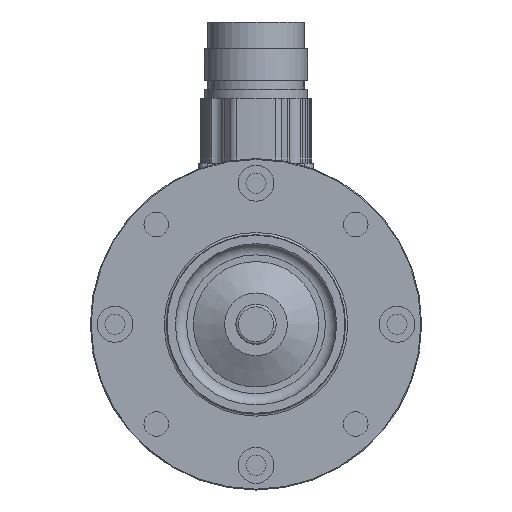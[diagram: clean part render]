
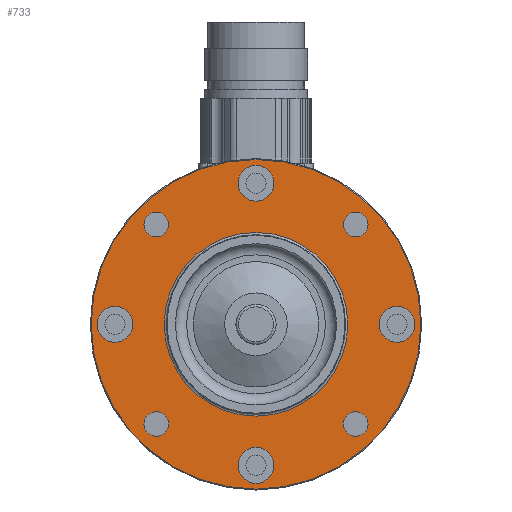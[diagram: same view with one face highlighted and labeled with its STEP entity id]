
A CAD part, front view. The second image highlights one B-rep face of the part: STEP entity #733.
In plain terms, the highlighted planar face has unit normal (0, -1, 0).
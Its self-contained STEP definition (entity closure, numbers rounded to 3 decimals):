
#355=PLANE('',#4500);
#453=FACE_BOUND('',#1378,.T.);
#454=FACE_BOUND('',#1379,.T.);
#455=FACE_BOUND('',#1380,.T.);
#456=FACE_BOUND('',#1381,.T.);
#457=FACE_BOUND('',#1382,.T.);
#458=FACE_BOUND('',#1383,.T.);
#459=FACE_BOUND('',#1384,.T.);
#460=FACE_BOUND('',#1385,.T.);
#461=FACE_BOUND('',#1387,.T.);
#733=ADVANCED_FACE('',(#453,#454,#455,#456,#457,#458,#459,#460,#1171,#461),
#355,.T.);
#1171=FACE_OUTER_BOUND('',#1386,.T.);
#1378=EDGE_LOOP('',(#2229));
#1379=EDGE_LOOP('',(#2230));
#1380=EDGE_LOOP('',(#2231));
#1381=EDGE_LOOP('',(#2232));
#1382=EDGE_LOOP('',(#2233));
#1383=EDGE_LOOP('',(#2234));
#1384=EDGE_LOOP('',(#2235));
#1385=EDGE_LOOP('',(#2236));
#1386=EDGE_LOOP('',(#2237));
#1387=EDGE_LOOP('',(#2238));
#1865=CIRCLE('',#4490,4.);
#1866=CIRCLE('',#4491,4.);
#1867=CIRCLE('',#4492,4.);
#1868=CIRCLE('',#4493,4.);
#1869=CIRCLE('',#4494,2.75);
#1870=CIRCLE('',#4495,2.75);
#1871=CIRCLE('',#4496,2.75);
#1872=CIRCLE('',#4497,2.75);
#1873=CIRCLE('',#4498,36.8);
#1874=CIRCLE('',#4499,20.5);
#2229=ORIENTED_EDGE('',*,*,#3653,.T.);
#2230=ORIENTED_EDGE('',*,*,#3654,.T.);
#2231=ORIENTED_EDGE('',*,*,#3655,.T.);
#2232=ORIENTED_EDGE('',*,*,#3656,.T.);
#2233=ORIENTED_EDGE('',*,*,#3657,.T.);
#2234=ORIENTED_EDGE('',*,*,#3658,.T.);
#2235=ORIENTED_EDGE('',*,*,#3659,.T.);
#2236=ORIENTED_EDGE('',*,*,#3660,.T.);
#2237=ORIENTED_EDGE('',*,*,#3661,.T.);
#2238=ORIENTED_EDGE('',*,*,#3662,.T.);
#3249=VERTEX_POINT('',#6635);
#3250=VERTEX_POINT('',#6637);
#3251=VERTEX_POINT('',#6639);
#3252=VERTEX_POINT('',#6641);
#3253=VERTEX_POINT('',#6643);
#3254=VERTEX_POINT('',#6645);
#3255=VERTEX_POINT('',#6647);
#3256=VERTEX_POINT('',#6649);
#3257=VERTEX_POINT('',#6651);
#3258=VERTEX_POINT('',#6653);
#3653=EDGE_CURVE('',#3249,#3249,#1865,.T.);
#3654=EDGE_CURVE('',#3250,#3250,#1866,.T.);
#3655=EDGE_CURVE('',#3251,#3251,#1867,.T.);
#3656=EDGE_CURVE('',#3252,#3252,#1868,.T.);
#3657=EDGE_CURVE('',#3253,#3253,#1869,.T.);
#3658=EDGE_CURVE('',#3254,#3254,#1870,.T.);
#3659=EDGE_CURVE('',#3255,#3255,#1871,.T.);
#3660=EDGE_CURVE('',#3256,#3256,#1872,.T.);
#3661=EDGE_CURVE('',#3257,#3257,#1873,.T.);
#3662=EDGE_CURVE('',#3258,#3258,#1874,.T.);
#4490=AXIS2_PLACEMENT_3D('',#6634,#5173,#5174);
#4491=AXIS2_PLACEMENT_3D('',#6636,#5175,#5176);
#4492=AXIS2_PLACEMENT_3D('',#6638,#5177,#5178);
#4493=AXIS2_PLACEMENT_3D('',#6640,#5179,#5180);
#4494=AXIS2_PLACEMENT_3D('',#6642,#5181,#5182);
#4495=AXIS2_PLACEMENT_3D('',#6644,#5183,#5184);
#4496=AXIS2_PLACEMENT_3D('',#6646,#5185,#5186);
#4497=AXIS2_PLACEMENT_3D('',#6648,#5187,#5188);
#4498=AXIS2_PLACEMENT_3D('',#6650,#5189,#5190);
#4499=AXIS2_PLACEMENT_3D('',#6652,#5191,#5192);
#4500=AXIS2_PLACEMENT_3D('',#6654,#5193,#5194);
#5173=DIRECTION('',(0.,1.,0.));
#5174=DIRECTION('',(-1.,0.,0.));
#5175=DIRECTION('',(0.,1.,0.));
#5176=DIRECTION('',(0.,0.,-1.));
#5177=DIRECTION('',(0.,1.,0.));
#5178=DIRECTION('',(1.,0.,0.));
#5179=DIRECTION('',(0.,1.,0.));
#5180=DIRECTION('',(0.,0.,1.));
#5181=DIRECTION('',(0.,1.,0.));
#5182=DIRECTION('',(-1.,0.,0.));
#5183=DIRECTION('',(0.,1.,0.));
#5184=DIRECTION('',(0.,0.,-1.));
#5185=DIRECTION('',(0.,1.,0.));
#5186=DIRECTION('',(1.,0.,0.));
#5187=DIRECTION('',(0.,1.,0.));
#5188=DIRECTION('',(0.,0.,1.));
#5189=DIRECTION('',(0.,-1.,0.));
#5190=DIRECTION('',(0.,0.,-1.));
#5191=DIRECTION('',(0.,1.,0.));
#5192=DIRECTION('',(0.,0.,-1.));
#5193=DIRECTION('',(0.,-1.,0.));
#5194=DIRECTION('',(0.,0.,-1.));
#6634=CARTESIAN_POINT('',(-31.5,0.,0.));
#6635=CARTESIAN_POINT('',(-35.5,0.,0.));
#6636=CARTESIAN_POINT('',(0.,0.,-31.5));
#6637=CARTESIAN_POINT('',(0.,0.,-35.5));
#6638=CARTESIAN_POINT('',(31.5,0.,0.));
#6639=CARTESIAN_POINT('',(35.5,0.,0.));
#6640=CARTESIAN_POINT('',(0.,0.,31.5));
#6641=CARTESIAN_POINT('',(0.,0.,35.5));
#6642=CARTESIAN_POINT('',(-22.274,0.,-22.274));
#6643=CARTESIAN_POINT('',(-25.024,0.,-22.274));
#6644=CARTESIAN_POINT('',(22.274,0.,-22.274));
#6645=CARTESIAN_POINT('',(22.274,0.,-25.024));
#6646=CARTESIAN_POINT('',(22.274,0.,22.274));
#6647=CARTESIAN_POINT('',(25.024,0.,22.274));
#6648=CARTESIAN_POINT('',(-22.274,0.,22.274));
#6649=CARTESIAN_POINT('',(-22.274,0.,25.024));
#6650=CARTESIAN_POINT('',(0.,0.,0.));
#6651=CARTESIAN_POINT('',(0.,0.,-36.8));
#6652=CARTESIAN_POINT('',(0.,0.,0.));
#6653=CARTESIAN_POINT('',(0.,0.,-20.5));
#6654=CARTESIAN_POINT('',(0.,0.,0.));
